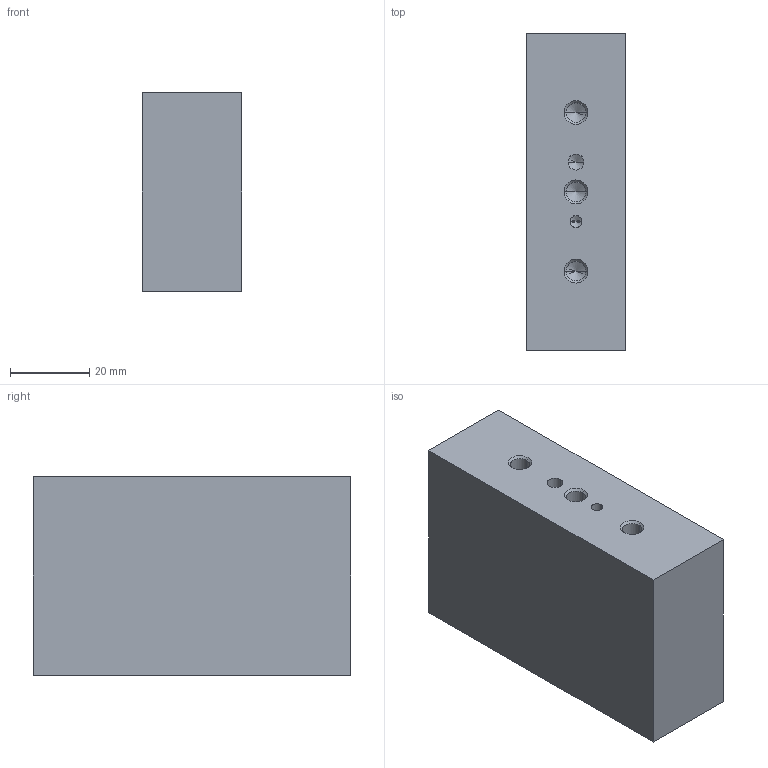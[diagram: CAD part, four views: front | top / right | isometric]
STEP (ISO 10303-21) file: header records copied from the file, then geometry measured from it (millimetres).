
FILE_DESCRIPTION(('STEP AP214'),'1');
FILE_NAME('cctmp_C2035AFF-50E7-4C83-B906-BC4C49ECF64D_2019_10_3_15_56_38_830..stp','2019-10-03T13:56:38',('Meusburger Georg GmbH & Co KG'),('CADClick - www.CADClick.com'),'Spatial InterOp 3D',' ','unknown authorization');
FILE_SCHEMA(('AUTOMOTIVE_DESIGN { 1 0 10303 214 1 1 1 1 }'));
Length unit declared in the file: millimetre
Products named in the file (1): V 91554_25_80_50
Bounding box: 25 x 80 x 50 mm (x, y, z)
Volume: 98895.9 mm3; surface area: 15420.5 mm2
Topology: 1 solids, 1 shells, 41 faces, 92 edges, 51 vertices
Faces by surface type: cylinder 16, cone 16, plane 9
Entity records: 1418 total; most frequent: DIRECTION 204, CARTESIAN_POINT 175, ORIENTED_EDGE 164, EDGE_CURVE 82, AXIS2_PLACEMENT_3D 80, VERTEX_POINT 51, EDGE_LOOP 49, LINE 44
